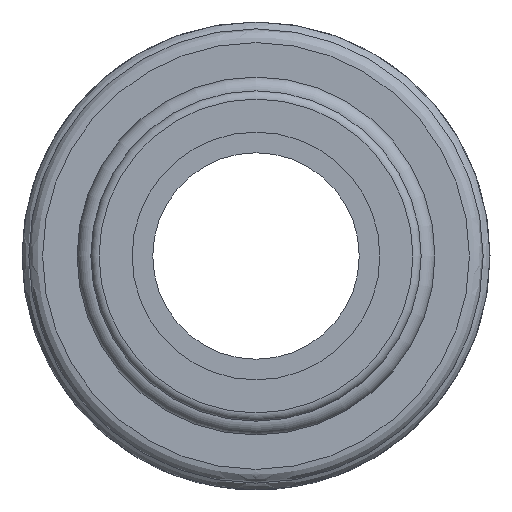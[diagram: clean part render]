
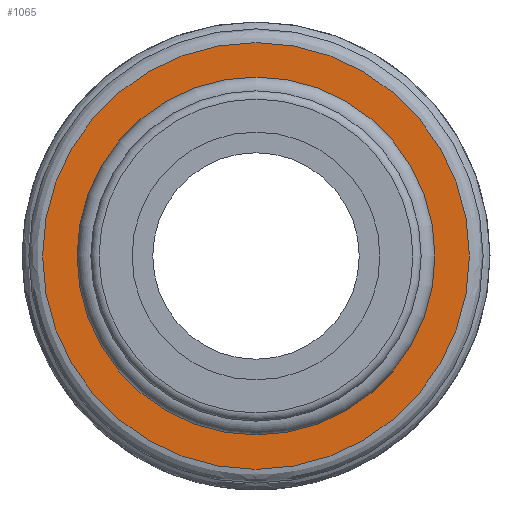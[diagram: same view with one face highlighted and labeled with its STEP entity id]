
A CAD part, left-side view. The second image highlights one B-rep face of the part: STEP entity #1065.
In plain terms, the highlighted free-form (B-spline) face has degree [1, 1] with [2, 2] control points.
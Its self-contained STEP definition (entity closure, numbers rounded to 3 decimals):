
#281=CARTESIAN_POINT('',(-30.5,5.0,0.0));
#282=VERTEX_POINT('',#281);
#283=CARTESIAN_POINT('',(-30.5,0.0,0.0));
#284=DIRECTION('',(-1.0,0.0,0.0));
#285=DIRECTION('',(0.0,1.0,0.0));
#286=AXIS2_PLACEMENT_3D('',#283,#284,#285);
#287=CIRCLE('',#286,5.0);
#288=EDGE_CURVE('',#282,#282,#287,.T.);
#990=CARTESIAN_POINT('',(-30.5,0.,-7.75));
#991=VERTEX_POINT('',#990);
#992=CARTESIAN_POINT('',(-30.5,0.0,0.0));
#993=DIRECTION('',(-1.0,0.0,0.0));
#994=DIRECTION('',(0.0,0.0,1.0));
#995=AXIS2_PLACEMENT_3D('',#992,#993,#994);
#996=CIRCLE('',#995,7.75);
#997=EDGE_CURVE('',#991,#991,#996,.T.);
#1054=CARTESIAN_POINT('',(-30.5,7.75,-7.75));
#1055=CARTESIAN_POINT('',(-30.5,7.75,7.75));
#1056=CARTESIAN_POINT('',(-30.5,-7.75,-7.75));
#1057=CARTESIAN_POINT('',(-30.5,-7.75,7.75));
#1058=B_SPLINE_SURFACE_WITH_KNOTS('',1,1,((#1054,#1056),(#1055,#1057)),.UNSPECIFIED.,.F.,.F.,.U.,(2,2),(2,2),(0.0,15.5),(0.0,15.5),.UNSPECIFIED.);
#1059=ORIENTED_EDGE('',*,*,#997,.T.);
#1060=EDGE_LOOP('',(#1059));
#1061=FACE_OUTER_BOUND('',#1060,.T.);
#1062=ORIENTED_EDGE('',*,*,#288,.F.);
#1063=EDGE_LOOP('',(#1062));
#1064=FACE_BOUND('',#1063,.T.);
#1065=ADVANCED_FACE('',(#1061,#1064),#1058,.F.);
